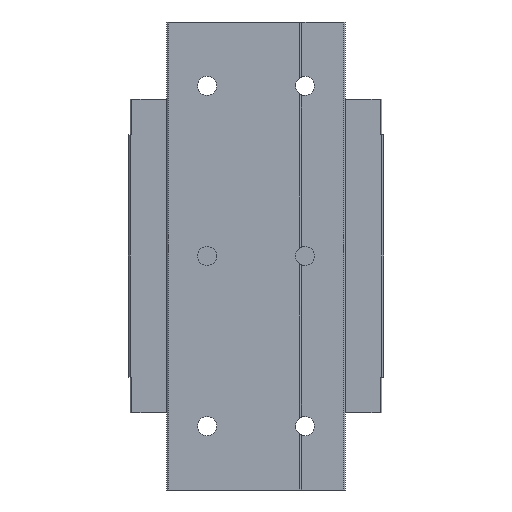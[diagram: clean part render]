
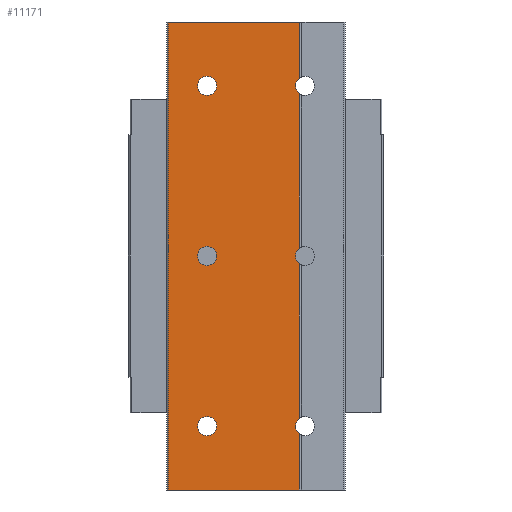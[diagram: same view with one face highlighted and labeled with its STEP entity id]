
A CAD part, front view. The second image highlights one B-rep face of the part: STEP entity #11171.
In plain terms, the highlighted planar face has unit normal (0, -1, 0).
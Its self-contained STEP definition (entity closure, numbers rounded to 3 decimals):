
#18 = EDGE_CURVE ( 'NONE', #1496, #7633, #8493, .T. ) ;
#177 = CARTESIAN_POINT ( 'NONE',  ( 10.2, 0., 55. ) ) ;
#203 = VERTEX_POINT ( 'NONE', #7751 ) ;
#330 = EDGE_CURVE ( 'NONE', #3685, #4372, #2440, .T. ) ;
#510 = LINE ( 'NONE', #7975, #10206 ) ;
#630 = FACE_BOUND ( 'NONE', #10845, .T. ) ;
#648 = ORIENTED_EDGE ( 'NONE', *, *, #11941, .F. ) ;
#704 = DIRECTION ( 'NONE',  ( 0., 0., -1. ) ) ;
#909 = VERTEX_POINT ( 'NONE', #6065 ) ;
#1077 = VECTOR ( 'NONE', #6552, 1000. ) ;
#1310 = AXIS2_PLACEMENT_3D ( 'NONE', #3621, #2623, #12055 ) ;
#1336 = DIRECTION ( 'NONE',  ( 0., -1., 0. ) ) ;
#1458 = CIRCLE ( 'NONE', #6356, 2.25 ) ;
#1472 = DIRECTION ( 'NONE',  ( 0., 0., -1. ) ) ;
#1496 = VERTEX_POINT ( 'NONE', #8341 ) ;
#1516 = ORIENTED_EDGE ( 'NONE', *, *, #3140, .F. ) ;
#1792 = VERTEX_POINT ( 'NONE', #7361 ) ;
#1814 = CARTESIAN_POINT ( 'NONE',  ( -11.5, 0., 37.75 ) ) ;
#1837 = CIRCLE ( 'NONE', #11140, 2.25 ) ;
#2136 = ORIENTED_EDGE ( 'NONE', *, *, #2334, .T. ) ;
#2167 = ORIENTED_EDGE ( 'NONE', *, *, #11107, .F. ) ;
#2212 = DIRECTION ( 'NONE',  ( 0., 0., -1. ) ) ;
#2334 = EDGE_CURVE ( 'NONE', #5418, #9107, #8179, .T. ) ;
#2391 = DIRECTION ( 'NONE',  ( 0., 1., 0. ) ) ;
#2395 = CARTESIAN_POINT ( 'NONE',  ( -11.5, 0., -40. ) ) ;
#2440 = LINE ( 'NONE', #11860, #6384 ) ;
#2457 = ORIENTED_EDGE ( 'NONE', *, *, #3171, .F. ) ;
#2561 = LINE ( 'NONE', #11858, #6053 ) ;
#2623 = DIRECTION ( 'NONE',  ( 0., -1., 0. ) ) ;
#2788 = VECTOR ( 'NONE', #3935, 1000. ) ;
#2995 = VERTEX_POINT ( 'NONE', #5966 ) ;
#3009 = EDGE_CURVE ( 'NONE', #12221, #2995, #510, .T. ) ;
#3066 = CARTESIAN_POINT ( 'NONE',  ( -20.6, 0., 55. ) ) ;
#3131 = DIRECTION ( 'NONE',  ( 0., 0., -1. ) ) ;
#3140 = EDGE_CURVE ( 'NONE', #9738, #5796, #8017, .T. ) ;
#3171 = EDGE_CURVE ( 'NONE', #2995, #1496, #6409, .T. ) ;
#3236 = DIRECTION ( 'NONE',  ( 0., -1., 0. ) ) ;
#3316 = DIRECTION ( 'NONE',  ( 1., 0., 0. ) ) ;
#3413 = CARTESIAN_POINT ( 'NONE',  ( 10.2, 0., 38.164 ) ) ;
#3619 = AXIS2_PLACEMENT_3D ( 'NONE', #11150, #4433, #704 ) ;
#3621 = CARTESIAN_POINT ( 'NONE',  ( 11.5, 0., 0. ) ) ;
#3659 = EDGE_LOOP ( 'NONE', ( #4861, #8099, #2457, #11847, #11242, #6073, #2136, #8510, #648, #5374 ) ) ;
#3685 = VERTEX_POINT ( 'NONE', #10862 ) ;
#3885 = AXIS2_PLACEMENT_3D ( 'NONE', #4405, #8966, #1472 ) ;
#3935 = DIRECTION ( 'NONE',  ( 0., 0., 1. ) ) ;
#4097 = DIRECTION ( 'NONE',  ( 0., 0., -1. ) ) ;
#4209 = DIRECTION ( 'NONE',  ( -1., 0., 0. ) ) ;
#4286 = DIRECTION ( 'NONE',  ( -1., 0., 0. ) ) ;
#4291 = CARTESIAN_POINT ( 'NONE',  ( -21., 0., 55. ) ) ;
#4294 = DIRECTION ( 'NONE',  ( 0., -1., 0. ) ) ;
#4372 = VERTEX_POINT ( 'NONE', #8901 ) ;
#4377 = EDGE_CURVE ( 'NONE', #203, #12221, #11740, .T. ) ;
#4405 = CARTESIAN_POINT ( 'NONE',  ( -11.5, 0., 0. ) ) ;
#4433 = DIRECTION ( 'NONE',  ( 0., -1., 0. ) ) ;
#4678 = CARTESIAN_POINT ( 'NONE',  ( -11.5, 0., -2.25 ) ) ;
#4683 = EDGE_LOOP ( 'NONE', ( #2167, #11919 ) ) ;
#4717 = EDGE_CURVE ( 'NONE', #10860, #6428, #8977, .T. ) ;
#4794 = EDGE_CURVE ( 'NONE', #7633, #3685, #1837, .T. ) ;
#4811 = VERTEX_POINT ( 'NONE', #4678 ) ;
#4861 = ORIENTED_EDGE ( 'NONE', *, *, #4794, .F. ) ;
#4930 = EDGE_CURVE ( 'NONE', #5418, #203, #10622, .T. ) ;
#4973 = AXIS2_PLACEMENT_3D ( 'NONE', #5960, #10876, #3131 ) ;
#5031 = EDGE_CURVE ( 'NONE', #6428, #10860, #1458, .T. ) ;
#5173 = VECTOR ( 'NONE', #11419, 1000. ) ;
#5348 = PLANE ( 'NONE',  #10429 ) ;
#5374 = ORIENTED_EDGE ( 'NONE', *, *, #330, .F. ) ;
#5418 = VERTEX_POINT ( 'NONE', #10114 ) ;
#5434 = CARTESIAN_POINT ( 'NONE',  ( -11.5, 0., 0. ) ) ;
#5691 = CARTESIAN_POINT ( 'NONE',  ( -11.5, 0., 42.25 ) ) ;
#5796 = VERTEX_POINT ( 'NONE', #12170 ) ;
#5848 = AXIS2_PLACEMENT_3D ( 'NONE', #9594, #8903, #2212 ) ;
#5960 = CARTESIAN_POINT ( 'NONE',  ( 11.5, 0., 40. ) ) ;
#5966 = CARTESIAN_POINT ( 'NONE',  ( 10.2, 0., 1.836 ) ) ;
#5999 = CARTESIAN_POINT ( 'NONE',  ( -11.5, 0., 40. ) ) ;
#6053 = VECTOR ( 'NONE', #4286, 1000. ) ;
#6065 = CARTESIAN_POINT ( 'NONE',  ( -20.6, 0., -55. ) ) ;
#6073 = ORIENTED_EDGE ( 'NONE', *, *, #4930, .F. ) ;
#6197 = DIRECTION ( 'NONE',  ( 0., 0., -1. ) ) ;
#6256 = DIRECTION ( 'NONE',  ( 0., 0., -1. ) ) ;
#6356 = AXIS2_PLACEMENT_3D ( 'NONE', #5999, #3236, #4097 ) ;
#6384 = VECTOR ( 'NONE', #6197, 1000. ) ;
#6409 = CIRCLE ( 'NONE', #1310, 2.25 ) ;
#6428 = VERTEX_POINT ( 'NONE', #1814 ) ;
#6552 = DIRECTION ( 'NONE',  ( 0., 0., -1. ) ) ;
#6595 = DIRECTION ( 'NONE',  ( 0., 0., -1. ) ) ;
#6831 = AXIS2_PLACEMENT_3D ( 'NONE', #2395, #4294, #11000 ) ;
#6850 = CIRCLE ( 'NONE', #5848, 2.25 ) ;
#6948 = CARTESIAN_POINT ( 'NONE',  ( -11.5, 0., -37.75 ) ) ;
#7063 = CARTESIAN_POINT ( 'NONE',  ( 10.5, 0., 55. ) ) ;
#7308 = CARTESIAN_POINT ( 'NONE',  ( 10.2, 0., 55. ) ) ;
#7357 = AXIS2_PLACEMENT_3D ( 'NONE', #5434, #1336, #9237 ) ;
#7361 = CARTESIAN_POINT ( 'NONE',  ( -11.5, 0., 2.25 ) ) ;
#7489 = ORIENTED_EDGE ( 'NONE', *, *, #11037, .F. ) ;
#7633 = VERTEX_POINT ( 'NONE', #9772 ) ;
#7751 = CARTESIAN_POINT ( 'NONE',  ( 10.2, 0., 41.836 ) ) ;
#7970 = CIRCLE ( 'NONE', #7357, 2.25 ) ;
#7975 = CARTESIAN_POINT ( 'NONE',  ( 10.2, 0., 55. ) ) ;
#8017 = CIRCLE ( 'NONE', #6831, 2.25 ) ;
#8099 = ORIENTED_EDGE ( 'NONE', *, *, #18, .F. ) ;
#8179 = LINE ( 'NONE', #7063, #11193 ) ;
#8341 = CARTESIAN_POINT ( 'NONE',  ( 10.2, 0., -1.836 ) ) ;
#8493 = LINE ( 'NONE', #7308, #1077 ) ;
#8510 = ORIENTED_EDGE ( 'NONE', *, *, #10490, .F. ) ;
#8572 = ORIENTED_EDGE ( 'NONE', *, *, #5031, .F. ) ;
#8901 = CARTESIAN_POINT ( 'NONE',  ( 10.2, 0., -55. ) ) ;
#8903 = DIRECTION ( 'NONE',  ( 0., -1., 0. ) ) ;
#8966 = DIRECTION ( 'NONE',  ( 0., -1., 0. ) ) ;
#8977 = CIRCLE ( 'NONE', #3619, 2.25 ) ;
#9023 = FACE_BOUND ( 'NONE', #4683, .T. ) ;
#9041 = CIRCLE ( 'NONE', #3885, 2.25 ) ;
#9089 = FACE_BOUND ( 'NONE', #9949, .T. ) ;
#9107 = VERTEX_POINT ( 'NONE', #10907 ) ;
#9237 = DIRECTION ( 'NONE',  ( 0., 0., -1. ) ) ;
#9594 = CARTESIAN_POINT ( 'NONE',  ( -11.5, 0., -40. ) ) ;
#9738 = VERTEX_POINT ( 'NONE', #6948 ) ;
#9772 = CARTESIAN_POINT ( 'NONE',  ( 10.2, 0., -38.164 ) ) ;
#9949 = EDGE_LOOP ( 'NONE', ( #8572, #11196 ) ) ;
#10114 = CARTESIAN_POINT ( 'NONE',  ( 10.2, 0., 55. ) ) ;
#10142 = FACE_OUTER_BOUND ( 'NONE', #3659, .T. ) ;
#10206 = VECTOR ( 'NONE', #6256, 1000. ) ;
#10429 = AXIS2_PLACEMENT_3D ( 'NONE', #4291, #2391, #3316 ) ;
#10490 = EDGE_CURVE ( 'NONE', #909, #9107, #10516, .T. ) ;
#10516 = LINE ( 'NONE', #3066, #2788 ) ;
#10622 = LINE ( 'NONE', #177, #5173 ) ;
#10699 = CARTESIAN_POINT ( 'NONE',  ( 11.5, 0., -40. ) ) ;
#10810 = EDGE_CURVE ( 'NONE', #1792, #4811, #7970, .T. ) ;
#10845 = EDGE_LOOP ( 'NONE', ( #7489, #1516 ) ) ;
#10860 = VERTEX_POINT ( 'NONE', #5691 ) ;
#10862 = CARTESIAN_POINT ( 'NONE',  ( 10.2, 0., -41.836 ) ) ;
#10876 = DIRECTION ( 'NONE',  ( 0., -1., 0. ) ) ;
#10907 = CARTESIAN_POINT ( 'NONE',  ( -20.6, 0., 55. ) ) ;
#11000 = DIRECTION ( 'NONE',  ( 0., 0., -1. ) ) ;
#11037 = EDGE_CURVE ( 'NONE', #5796, #9738, #6850, .T. ) ;
#11107 = EDGE_CURVE ( 'NONE', #4811, #1792, #9041, .T. ) ;
#11140 = AXIS2_PLACEMENT_3D ( 'NONE', #10699, #11625, #6595 ) ;
#11150 = CARTESIAN_POINT ( 'NONE',  ( -11.5, 0., 40. ) ) ;
#11171 = ADVANCED_FACE ( 'NONE', ( #9089, #9023, #630, #10142 ), #5348, .F. ) ;
#11193 = VECTOR ( 'NONE', #4209, 1000. ) ;
#11196 = ORIENTED_EDGE ( 'NONE', *, *, #4717, .F. ) ;
#11242 = ORIENTED_EDGE ( 'NONE', *, *, #4377, .F. ) ;
#11419 = DIRECTION ( 'NONE',  ( 0., 0., -1. ) ) ;
#11625 = DIRECTION ( 'NONE',  ( 0., -1., 0. ) ) ;
#11740 = CIRCLE ( 'NONE', #4973, 2.25 ) ;
#11847 = ORIENTED_EDGE ( 'NONE', *, *, #3009, .F. ) ;
#11858 = CARTESIAN_POINT ( 'NONE',  ( 10.5, 0., -55. ) ) ;
#11860 = CARTESIAN_POINT ( 'NONE',  ( 10.2, 0., 55. ) ) ;
#11919 = ORIENTED_EDGE ( 'NONE', *, *, #10810, .F. ) ;
#11941 = EDGE_CURVE ( 'NONE', #4372, #909, #2561, .T. ) ;
#12055 = DIRECTION ( 'NONE',  ( 0., 0., -1. ) ) ;
#12170 = CARTESIAN_POINT ( 'NONE',  ( -11.5, 0., -42.25 ) ) ;
#12221 = VERTEX_POINT ( 'NONE', #3413 ) ;
